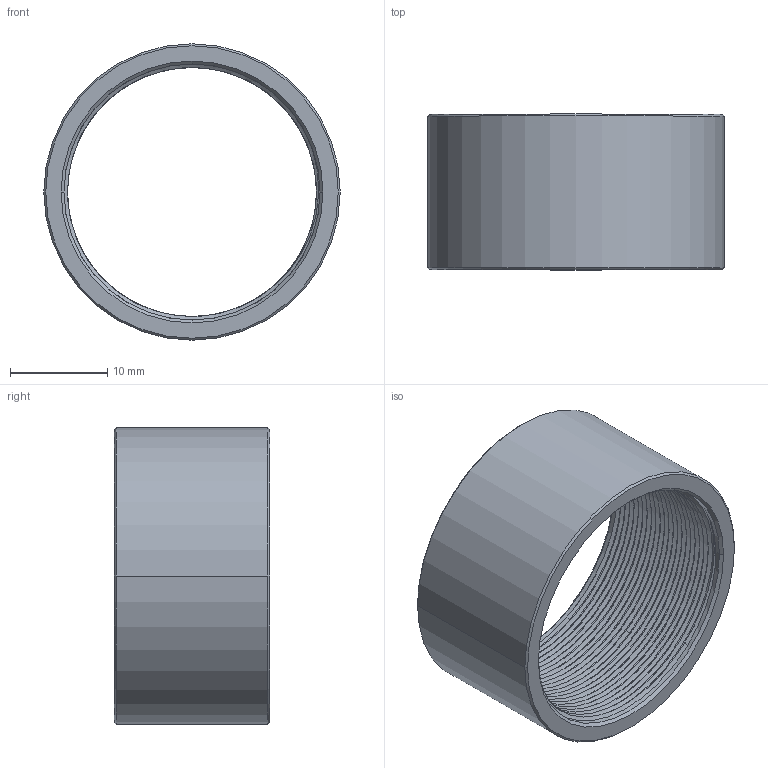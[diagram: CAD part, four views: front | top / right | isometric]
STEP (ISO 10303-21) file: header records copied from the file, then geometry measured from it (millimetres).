
FILE_DESCRIPTION((''),'2;1');
FILE_NAME('CSB-16','2020-10-15T',('Administrator'),(''),'CREO PARAMETRIC BY PTC INC, 2015290','CREO PARAMETRIC BY PTC INC, 2015290','');
FILE_SCHEMA(('CONFIG_CONTROL_DESIGN'));
Length unit declared in the file: millimetre
Products named in the file (1): CSB-16
Bounding box: 30.5 x 16 x 30.5 mm (x, y, z)
Volume: 3112.7 mm3; surface area: 3819.7 mm2
Topology: 1 solids, 1 shells, 74 faces, 201 edges, 129 vertices
Faces by surface type: cylinder 48, bspline 16, cone 8, plane 2
Entity records: 8477 total; most frequent: CARTESIAN_POINT 6834, ORIENTED_EDGE 402, DIRECTION 219, EDGE_CURVE 201, VERTEX_POINT 129, B_SPLINE_CURVE_WITH_KNOTS 114, EDGE_LOOP 76, AXIS2_PLACEMENT_3D 74
